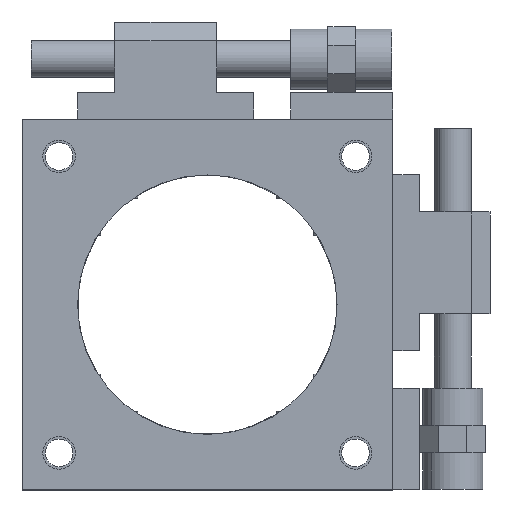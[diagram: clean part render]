
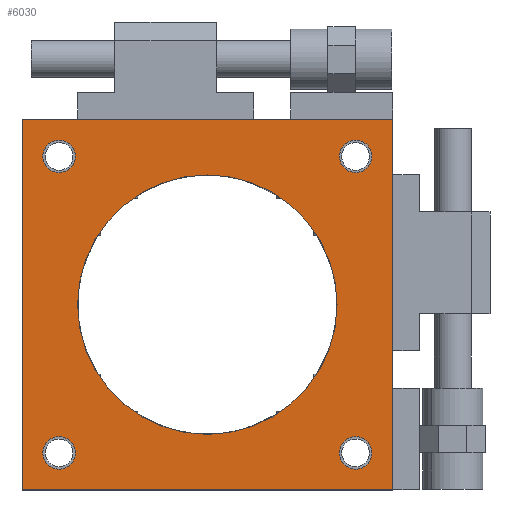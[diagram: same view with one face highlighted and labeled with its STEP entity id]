
A CAD part, front view. The second image highlights one B-rep face of the part: STEP entity #6030.
In plain terms, the highlighted planar face has unit normal (0, -1, 0).
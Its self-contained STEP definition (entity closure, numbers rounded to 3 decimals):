
#20 = EDGE_CURVE ( 'NONE', #7485, #7370, #4578, .T. ) ;
#168 = VERTEX_POINT ( 'NONE', #2014 ) ;
#251 = CIRCLE ( 'NONE', #5618, 1.75 ) ;
#431 = ORIENTED_EDGE ( 'NONE', *, *, #3210, .F. ) ;
#600 = CARTESIAN_POINT ( 'NONE',  ( -16., 0., 16. ) ) ;
#741 = CARTESIAN_POINT ( 'NONE',  ( -16., 0., -16. ) ) ;
#813 = CIRCLE ( 'NONE', #6476, 1.75 ) ;
#836 = CARTESIAN_POINT ( 'NONE',  ( 16., 0., 17.75 ) ) ;
#856 = CARTESIAN_POINT ( 'NONE',  ( -16., 0., 14.25 ) ) ;
#1028 = EDGE_CURVE ( 'NONE', #7370, #7374, #1229, .T. ) ;
#1104 = ORIENTED_EDGE ( 'NONE', *, *, #20, .F. ) ;
#1143 = DIRECTION ( 'NONE',  ( 0., 1., 0. ) ) ;
#1172 = AXIS2_PLACEMENT_3D ( 'NONE', #1795, #5926, #2388 ) ;
#1186 = ORIENTED_EDGE ( 'NONE', *, *, #6685, .T. ) ;
#1229 = LINE ( 'NONE', #6182, #3998 ) ;
#1238 = CARTESIAN_POINT ( 'NONE',  ( -20., 0., 20. ) ) ;
#1260 = CIRCLE ( 'NONE', #2489, 1.75 ) ;
#1302 = DIRECTION ( 'NONE',  ( 0., 0., 1. ) ) ;
#1326 = DIRECTION ( 'NONE',  ( 0., 0., 1. ) ) ;
#1344 = CARTESIAN_POINT ( 'NONE',  ( 16., 0., -17.75 ) ) ;
#1355 = VERTEX_POINT ( 'NONE', #1344 ) ;
#1380 = FACE_BOUND ( 'NONE', #1613, .T. ) ;
#1570 = FACE_BOUND ( 'NONE', #5736, .T. ) ;
#1613 = EDGE_LOOP ( 'NONE', ( #7671, #1186 ) ) ;
#1637 = DIRECTION ( 'NONE',  ( 0., 0., 1. ) ) ;
#1708 = CIRCLE ( 'NONE', #5755, 1.75 ) ;
#1720 = LINE ( 'NONE', #4279, #6628 ) ;
#1747 = EDGE_CURVE ( 'NONE', #168, #4763, #5911, .T. ) ;
#1790 = EDGE_CURVE ( 'NONE', #4772, #4209, #4132, .T. ) ;
#1795 = CARTESIAN_POINT ( 'NONE',  ( 16., 0., 16. ) ) ;
#1885 = EDGE_CURVE ( 'NONE', #6301, #5318, #6941, .T. ) ;
#1888 = CARTESIAN_POINT ( 'NONE',  ( -16., 0., 17.75 ) ) ;
#1943 = EDGE_CURVE ( 'NONE', #4209, #4772, #6554, .T. ) ;
#2014 = CARTESIAN_POINT ( 'NONE',  ( 16., 0., 14.25 ) ) ;
#2045 = DIRECTION ( 'NONE',  ( 0., 1., 0. ) ) ;
#2253 = DIRECTION ( 'NONE',  ( 0., 1., 0. ) ) ;
#2337 = DIRECTION ( 'NONE',  ( 0., 1., 0. ) ) ;
#2388 = DIRECTION ( 'NONE',  ( 0., 0., 1. ) ) ;
#2413 = ORIENTED_EDGE ( 'NONE', *, *, #1028, .F. ) ;
#2489 = AXIS2_PLACEMENT_3D ( 'NONE', #4674, #1143, #5254 ) ;
#2532 = DIRECTION ( 'NONE',  ( 0., 0., 1. ) ) ;
#2584 = CARTESIAN_POINT ( 'NONE',  ( -20., 0., 20. ) ) ;
#2884 = DIRECTION ( 'NONE',  ( 0., 1., 0. ) ) ;
#2888 = CARTESIAN_POINT ( 'NONE',  ( 0., 0., -14. ) ) ;
#2932 = FACE_OUTER_BOUND ( 'NONE', #7576, .T. ) ;
#2958 = CARTESIAN_POINT ( 'NONE',  ( -20., 0., -20. ) ) ;
#2989 = VECTOR ( 'NONE', #7169, 1000. ) ;
#3044 = ORIENTED_EDGE ( 'NONE', *, *, #1943, .T. ) ;
#3065 = CARTESIAN_POINT ( 'NONE',  ( 0., 0., 0. ) ) ;
#3096 = CARTESIAN_POINT ( 'NONE',  ( 16., 0., -14.25 ) ) ;
#3123 = CARTESIAN_POINT ( 'NONE',  ( 16., 0., 16. ) ) ;
#3205 = DIRECTION ( 'NONE',  ( 0., 0., 1. ) ) ;
#3210 = EDGE_CURVE ( 'NONE', #5405, #7485, #1720, .T. ) ;
#3311 = DIRECTION ( 'NONE',  ( 0., 1., 0. ) ) ;
#3409 = AXIS2_PLACEMENT_3D ( 'NONE', #3123, #6671, #2532 ) ;
#3498 = EDGE_CURVE ( 'NONE', #1355, #6571, #1260, .T. ) ;
#3518 = ORIENTED_EDGE ( 'NONE', *, *, #1747, .T. ) ;
#3539 = CARTESIAN_POINT ( 'NONE',  ( -16., 0., -17.75 ) ) ;
#3556 = DIRECTION ( 'NONE',  ( -1., 0., 0. ) ) ;
#3590 = ORIENTED_EDGE ( 'NONE', *, *, #5802, .T. ) ;
#3688 = DIRECTION ( 'NONE',  ( 0., 0., 1. ) ) ;
#3841 = ORIENTED_EDGE ( 'NONE', *, *, #7096, .T. ) ;
#3998 = VECTOR ( 'NONE', #7390, 1000. ) ;
#4066 = EDGE_CURVE ( 'NONE', #7374, #5405, #5582, .T. ) ;
#4106 = EDGE_LOOP ( 'NONE', ( #3044, #7633 ) ) ;
#4132 = CIRCLE ( 'NONE', #4202, 1.75 ) ;
#4202 = AXIS2_PLACEMENT_3D ( 'NONE', #600, #5921, #1637 ) ;
#4209 = VERTEX_POINT ( 'NONE', #1888 ) ;
#4218 = EDGE_CURVE ( 'NONE', #5155, #5098, #1708, .T. ) ;
#4279 = CARTESIAN_POINT ( 'NONE',  ( -20., 0., -20. ) ) ;
#4333 = CARTESIAN_POINT ( 'NONE',  ( -16., 0., 16. ) ) ;
#4492 = DIRECTION ( 'NONE',  ( 0., 0., 1. ) ) ;
#4503 = ORIENTED_EDGE ( 'NONE', *, *, #5752, .T. ) ;
#4513 = FACE_BOUND ( 'NONE', #6877, .T. ) ;
#4578 = LINE ( 'NONE', #1238, #2989 ) ;
#4674 = CARTESIAN_POINT ( 'NONE',  ( 16., 0., -16. ) ) ;
#4726 = AXIS2_PLACEMENT_3D ( 'NONE', #7342, #6764, #3205 ) ;
#4763 = VERTEX_POINT ( 'NONE', #836 ) ;
#4772 = VERTEX_POINT ( 'NONE', #856 ) ;
#4812 = CARTESIAN_POINT ( 'NONE',  ( 20., 0., -20. ) ) ;
#4854 = DIRECTION ( 'NONE',  ( 0., 1., 0. ) ) ;
#4882 = FACE_BOUND ( 'NONE', #4106, .T. ) ;
#4923 = CARTESIAN_POINT ( 'NONE',  ( -20., 0., -20. ) ) ;
#5098 = VERTEX_POINT ( 'NONE', #3539 ) ;
#5155 = VERTEX_POINT ( 'NONE', #6555 ) ;
#5254 = DIRECTION ( 'NONE',  ( 0., 0., 1. ) ) ;
#5318 = VERTEX_POINT ( 'NONE', #5444 ) ;
#5393 = AXIS2_PLACEMENT_3D ( 'NONE', #3065, #3311, #1302 ) ;
#5401 = VECTOR ( 'NONE', #3556, 1000. ) ;
#5405 = VERTEX_POINT ( 'NONE', #4923 ) ;
#5444 = CARTESIAN_POINT ( 'NONE',  ( 0., 0., 14. ) ) ;
#5557 = PLANE ( 'NONE',  #4726 ) ;
#5575 = CARTESIAN_POINT ( 'NONE',  ( -16., 0., -16. ) ) ;
#5582 = LINE ( 'NONE', #2958, #5401 ) ;
#5618 = AXIS2_PLACEMENT_3D ( 'NONE', #5575, #2045, #6184 ) ;
#5661 = AXIS2_PLACEMENT_3D ( 'NONE', #5880, #2337, #6472 ) ;
#5736 = EDGE_LOOP ( 'NONE', ( #3841, #7623 ) ) ;
#5752 = EDGE_CURVE ( 'NONE', #5318, #6301, #7589, .T. ) ;
#5755 = AXIS2_PLACEMENT_3D ( 'NONE', #741, #4854, #1326 ) ;
#5797 = CARTESIAN_POINT ( 'NONE',  ( 16., 0., -16. ) ) ;
#5802 = EDGE_CURVE ( 'NONE', #4763, #168, #7217, .T. ) ;
#5880 = CARTESIAN_POINT ( 'NONE',  ( 0., 0., 0. ) ) ;
#5911 = CIRCLE ( 'NONE', #3409, 1.75 ) ;
#5921 = DIRECTION ( 'NONE',  ( 0., 1., 0. ) ) ;
#5926 = DIRECTION ( 'NONE',  ( 0., 1., 0. ) ) ;
#5995 = CARTESIAN_POINT ( 'NONE',  ( 20., 0., 20. ) ) ;
#6030 = ADVANCED_FACE ( 'NONE', ( #6082, #4882, #4513, #2932, #1570, #1380 ), #5557, .F. ) ;
#6082 = FACE_BOUND ( 'NONE', #6102, .T. ) ;
#6102 = EDGE_LOOP ( 'NONE', ( #4503, #6782 ) ) ;
#6182 = CARTESIAN_POINT ( 'NONE',  ( 20., 0., -20. ) ) ;
#6184 = DIRECTION ( 'NONE',  ( 0., 0., 1. ) ) ;
#6301 = VERTEX_POINT ( 'NONE', #2888 ) ;
#6394 = DIRECTION ( 'NONE',  ( 0., 0., 1. ) ) ;
#6472 = DIRECTION ( 'NONE',  ( 0., 0., 1. ) ) ;
#6476 = AXIS2_PLACEMENT_3D ( 'NONE', #5797, #2253, #6394 ) ;
#6514 = ORIENTED_EDGE ( 'NONE', *, *, #4066, .F. ) ;
#6554 = CIRCLE ( 'NONE', #7005, 1.75 ) ;
#6555 = CARTESIAN_POINT ( 'NONE',  ( -16., 0., -14.25 ) ) ;
#6571 = VERTEX_POINT ( 'NONE', #3096 ) ;
#6628 = VECTOR ( 'NONE', #3688, 1000. ) ;
#6671 = DIRECTION ( 'NONE',  ( 0., 1., 0. ) ) ;
#6685 = EDGE_CURVE ( 'NONE', #5098, #5155, #251, .T. ) ;
#6764 = DIRECTION ( 'NONE',  ( 0., 1., 0. ) ) ;
#6782 = ORIENTED_EDGE ( 'NONE', *, *, #1885, .T. ) ;
#6877 = EDGE_LOOP ( 'NONE', ( #3590, #3518 ) ) ;
#6941 = CIRCLE ( 'NONE', #5393, 14. ) ;
#7005 = AXIS2_PLACEMENT_3D ( 'NONE', #4333, #2884, #4492 ) ;
#7096 = EDGE_CURVE ( 'NONE', #6571, #1355, #813, .T. ) ;
#7169 = DIRECTION ( 'NONE',  ( 1., 0., 0. ) ) ;
#7217 = CIRCLE ( 'NONE', #1172, 1.75 ) ;
#7342 = CARTESIAN_POINT ( 'NONE',  ( 0., 0., 0. ) ) ;
#7370 = VERTEX_POINT ( 'NONE', #5995 ) ;
#7374 = VERTEX_POINT ( 'NONE', #4812 ) ;
#7390 = DIRECTION ( 'NONE',  ( 0., 0., -1. ) ) ;
#7485 = VERTEX_POINT ( 'NONE', #2584 ) ;
#7576 = EDGE_LOOP ( 'NONE', ( #431, #6514, #2413, #1104 ) ) ;
#7589 = CIRCLE ( 'NONE', #5661, 14. ) ;
#7623 = ORIENTED_EDGE ( 'NONE', *, *, #3498, .T. ) ;
#7633 = ORIENTED_EDGE ( 'NONE', *, *, #1790, .T. ) ;
#7671 = ORIENTED_EDGE ( 'NONE', *, *, #4218, .T. ) ;
